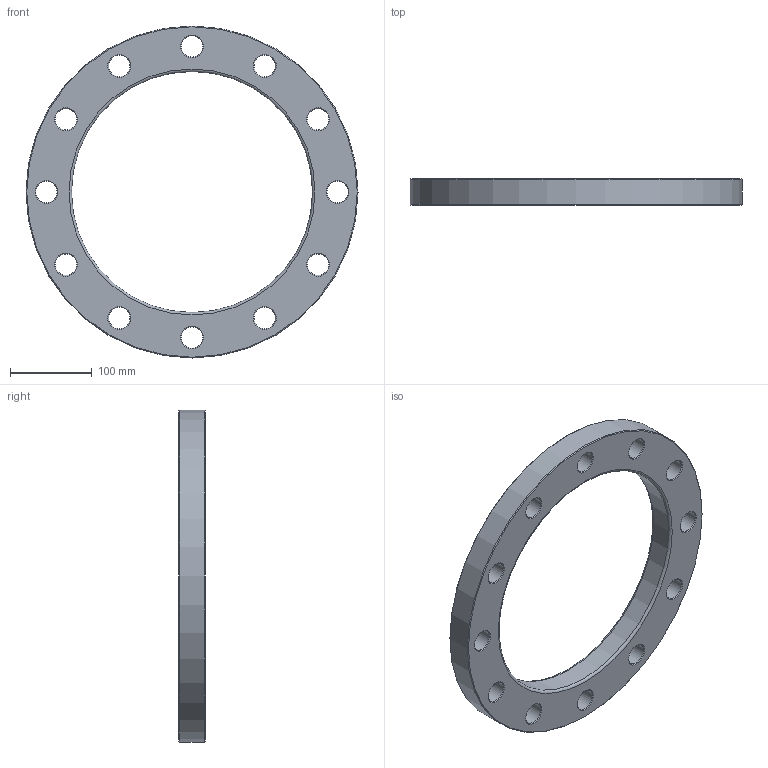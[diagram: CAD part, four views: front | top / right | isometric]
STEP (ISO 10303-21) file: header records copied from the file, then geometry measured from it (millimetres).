
FILE_DESCRIPTION(/* description */ ('Unknown'),/* implementation_level */ '2;1');
FILE_NAME(/* name */ 'FR280C',/* time_stamp */ '2022-07-05T17:08:41+02:00',/* author */ ('Unknown'),/* organization */ ('Unknown'),/* preprocessor_version */ 'ST-DEVELOPER v18.102',/* originating_system */ 'Solid Edge',/* authorisation */ 'Unknown');
FILE_SCHEMA (('AUTOMOTIVE_DESIGN {1 0 10303 214 3 1 1}'));
Length unit declared in the file: millimetre
Products named in the file (1): FR280C
Bounding box: 405 x 32 x 405 mm (x, y, z)
Volume: 1740287.8 mm3; surface area: 205790.1 mm2
Topology: 1 solids, 1 shells, 44 faces, 134 edges, 92 vertices
Faces by surface type: cone 26, cylinder 14, plane 2, torus 2
Full cylindrical faces by diameter (mm): 26 x12, 294 x1, 405 x1
Entity records: 1086 total; most frequent: DIRECTION 202, CARTESIAN_POINT 157, ORIENTED_EDGE 112, EDGE_LOOP 112, FACE_BOUND 112, AXIS2_PLACEMENT_3D 101, EDGE_CURVE 56, VERTEX_POINT 56
